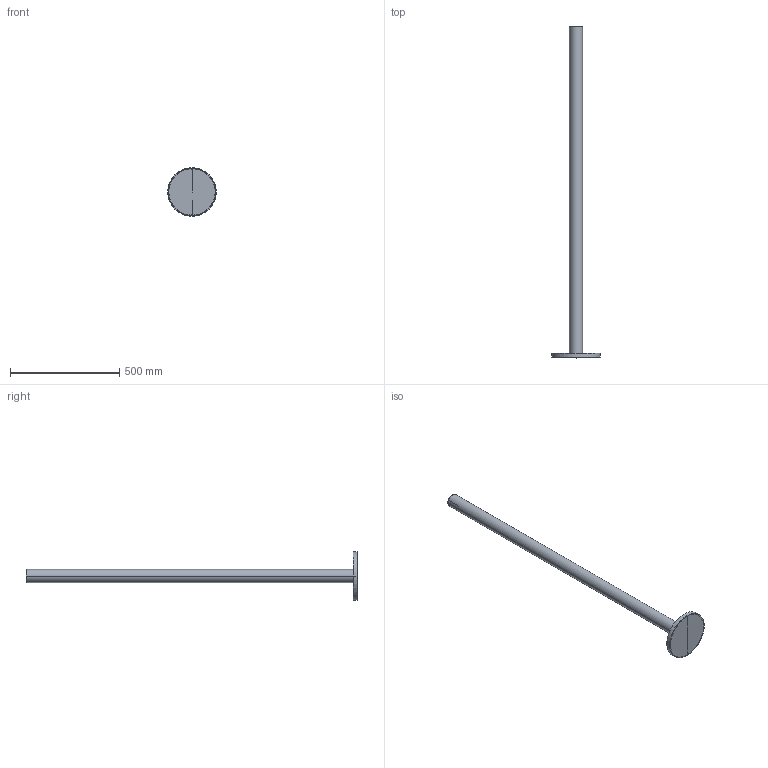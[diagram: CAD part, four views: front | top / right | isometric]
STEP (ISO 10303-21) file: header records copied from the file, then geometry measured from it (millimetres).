
FILE_DESCRIPTION((''),'2;1');
FILE_NAME('LINE-220_SW0002','2025-07-01T09:12:45',('Piccioli'),(''),'CREO PARAMETRIC BY PTC INC, 2025010','CREO PARAMETRIC BY PTC INC, 2025010','');
FILE_SCHEMA(('CONFIG_CONTROL_DESIGN'));
Length unit declared in the file: millimetre
Products named in the file (1): LINE-220_SW0002
Bounding box: 222 x 1521.3 x 222 mm (x, y, z)
Surface area: 420468.7 mm2 (no closed solid volume)
Topology: 0 solids, 14 shells, 22 faces, 196 edges, 185 vertices
Faces by surface type: cone 10, plane 8, sphere 2, cylinder 2
Entity records: 2487 total; most frequent: CARTESIAN_POINT 1102, DIRECTION 268, ORIENTED_EDGE 206, EDGE_CURVE 194, VERTEX_POINT 185, AXIS2_PLACEMENT_3D 108, CIRCLE 86, B_SPLINE_CURVE_WITH_KNOTS 56
